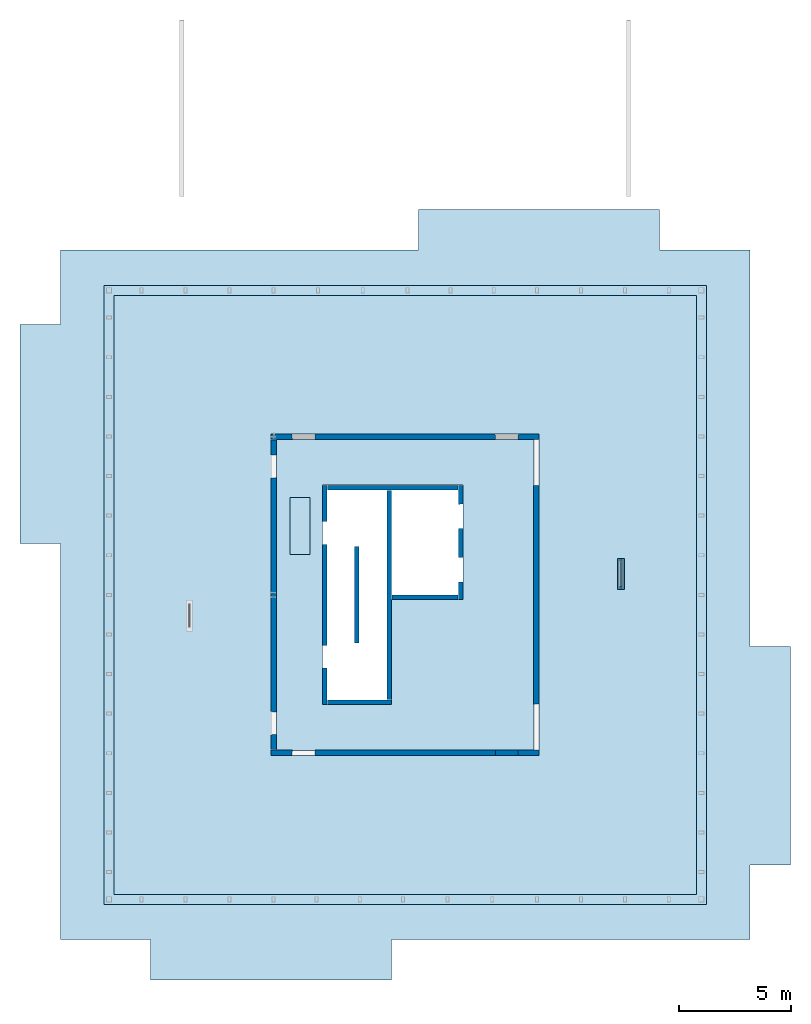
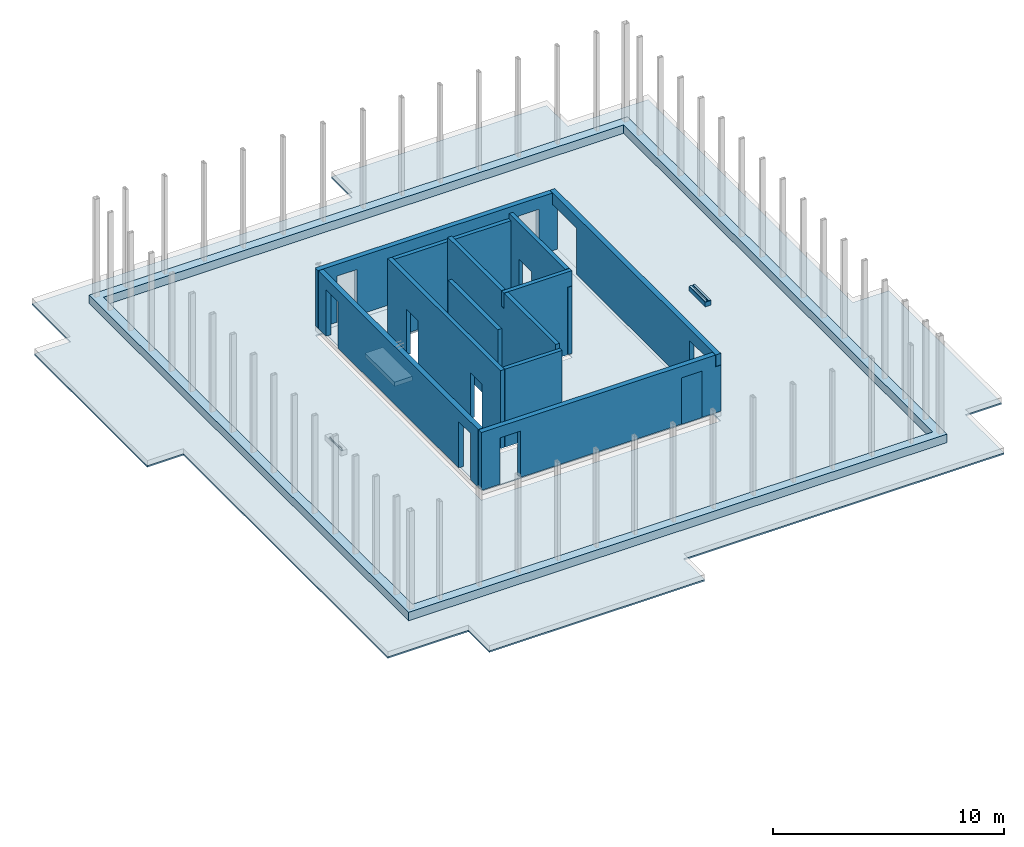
# One storey, part 7 of 9: 12 walls, 9 slabs, 33 openings.
"""IFC2X3 building model written with IfcOpenShell, lengths in millimetres."""

from ifc_helpers import new_model, entity, si_unit, converted_unit, derived_unit, direction, frame, frame_2d, origin, origin_2d_with_axis, place, context, subcontext, project, spatial, polyline, rectangle, circle, outline, extrude, faceted_brep, material, layer, layer_set, layer_usage, type_object, element, save


model = new_model("IFC2X3")

# Units and contexts
model_context = context("Model", 3, precision=0.01, world=origin(), true_north=direction((6.12303176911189e-17, 1.0)))
body_context = subcontext(model_context, "Body", "Model", "MODEL_VIEW")
ifc_project = project(units=[si_unit("LENGTHUNIT", "METRE", prefix="MILLI"), si_unit("AREAUNIT", "SQUARE_METRE"), si_unit("VOLUMEUNIT", "CUBIC_METRE"), converted_unit("PLANEANGLEUNIT", "DEGREE", entity("IfcRatioMeasure", 0.0174532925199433), si_unit("PLANEANGLEUNIT", "RADIAN"), dimensions=[0, 0, 0, 0, 0, 0, 0]), si_unit("MASSUNIT", "GRAM", prefix="KILO"), derived_unit("MASSDENSITYUNIT", [(si_unit("MASSUNIT", "GRAM", prefix="KILO"), 1), (si_unit("LENGTHUNIT", "METRE"), -3)]), si_unit("TIMEUNIT", "SECOND"), si_unit("FREQUENCYUNIT", "HERTZ"), si_unit("THERMODYNAMICTEMPERATUREUNIT", "DEGREE_CELSIUS"), derived_unit("THERMALTRANSMITTANCEUNIT", [(si_unit("MASSUNIT", "GRAM", prefix="KILO"), 1), (si_unit("THERMODYNAMICTEMPERATUREUNIT", "KELVIN"), -1), (si_unit("TIMEUNIT", "SECOND"), -3)]), derived_unit("VOLUMETRICFLOWRATEUNIT", [(si_unit("LENGTHUNIT", "METRE"), 3), (si_unit("TIMEUNIT", "SECOND"), -1)]), si_unit("ELECTRICCURRENTUNIT", "AMPERE"), si_unit("ELECTRICVOLTAGEUNIT", "VOLT"), si_unit("POWERUNIT", "WATT"), si_unit("FORCEUNIT", "NEWTON", prefix="KILO"), si_unit("ILLUMINANCEUNIT", "LUX"), si_unit("LUMINOUSFLUXUNIT", "LUMEN"), si_unit("LUMINOUSINTENSITYUNIT", "CANDELA"), derived_unit("USERDEFINED", [(si_unit("MASSUNIT", "GRAM", prefix="KILO"), -1), (si_unit("LENGTHUNIT", "METRE"), -2), (si_unit("TIMEUNIT", "SECOND"), 3), (si_unit("LUMINOUSFLUXUNIT", "LUMEN"), 1)]), derived_unit("LINEARVELOCITYUNIT", [(si_unit("LENGTHUNIT", "METRE"), 1), (si_unit("TIMEUNIT", "SECOND"), -1)]), si_unit("PRESSUREUNIT", "PASCAL"), derived_unit("USERDEFINED", [(si_unit("LENGTHUNIT", "METRE"), -2), (si_unit("MASSUNIT", "GRAM", prefix="KILO"), 1), (si_unit("TIMEUNIT", "SECOND"), -2)])], contexts=[model_context])

# Site, building, storey
site_placement = place(None, origin())
site = spatial("IfcSite", under=ifc_project, at=site_placement, Name="Default", CompositionType="ELEMENT")
building_placement = place(site_placement, origin())
building = spatial("IfcBuilding", under=site, at=building_placement, Name="niet gebruiken", CompositionType="ELEMENT")
storey_placement = place(building_placement, frame((0.0, 0.0, 178840.0)))
storey = spatial("IfcBuildingStorey", under=building, at=storey_placement, Name="57 zevenenvijftigste verdieping", CompositionType="ELEMENT", Elevation=178840.0)

# Slab, opening
ifc_material_1 = material(Name="NLRS_f2_beton ihwg")
ifc_layer_1 = layer(ifc_material_1, 450.0)
ifc_layer_set_1 = layer_set([ifc_layer_1], Name="Floor:NLRS_13.22_FL_beton ihwg b=450_gen")
ifc_layer_usage_1 = layer_usage(ifc_layer_set_1, "AXIS3", "POSITIVE", 0.0)
slab_1_placement = place(storey_placement, frame((128270.0, 3645.0, -310.0)))
slab_1 = element("IfcSlab", 1, at=slab_1_placement, inside=storey, material=ifc_layer_usage_1, Name="Floor:NLRS_13.22_FL_beton ihwg b=450_gen", ObjectType="Floor:NLRS_13.22_FL_beton ihwg b=450_gen", PredefinedType="BASESLAB", context=body_context, shape_type="SweptSolid", body=[
    extrude(rectangle(XDim=27709.999999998, YDim=26960.0, at=frame_2d((0.0, 0.0), x_axis=(0.0, -1.0))), frame((13480.0, 13855.0, 450.0), z_axis=(0.0, 0.0, -1.0), x_axis=(-1.0, 0.0, 0.0)), (0.0, 0.0, 1.0), 450.000000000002),
])
opening_1_placement = place(slab_1_placement, frame((13480.0, 13855.0, 450.0)))
element("IfcOpeningElement", 2, at=opening_1_placement, cuts=slab_1, Name="Floor:NLRS_13.22_FL_beton ihwg b=450_gen:2", ObjectType="Opening", context=body_context, shape_type="SweptSolid", body=[
    extrude(rectangle(XDim=26809.999999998, YDim=26060.0, at=origin_2d_with_axis()), frame((0.0, 0.0, 0.0), z_axis=(0.0, 0.0, -1.0), x_axis=(0.0, -1.0, 0.0)), (0.0, 0.0, 1.0), 450.000000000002),
])

ifc_material_2 = material(Name="NLRS_f2_beton prefab")
ifc_layer_2 = layer(ifc_material_2, 80.0)
ifc_layer_set_2 = layer_set([ifc_layer_2], Name="Floor:NLRS_23.21_FL_breedplaat d=80_gen")
ifc_layer_usage_2 = layer_usage(ifc_layer_set_2, "AXIS3", "POSITIVE", 0.0)
slab_2_placement = place(storey_placement, frame((124510.0, 260.0, -660.0)))
slab_2 = element("IfcSlab", 3, at=slab_2_placement, inside=storey, material=ifc_layer_usage_2, Name="Floor:NLRS_23.21_FL_breedplaat d=80_gen", ObjectType="Floor:NLRS_23.21_FL_breedplaat d=80_gen", PredefinedType="FLOOR", context=body_context, shape_type="SweptSolid", body=[
    extrude(outline(polyline([(15430.0, 15430.0), (-605.0, 15430.0), (-605.0, 17240.0), (-4875.0, 17240.0), (-11395.0, 17240.0), (-11395.0, 15430.0), (-15430.0, 15430.0), (-15430.0, -2305.0), (-17240.0, -2305.0), (-17240.0, -3235.0), (-17240.0, -12095.0), (-15430.0, -12095.0), (-15430.0, -15430.0), (605.0, -15430.0), (605.0, -17240.0), (11395.0, -17240.0), (11395.0, -15430.0), (15430.0, -15430.0), (15430.0, 2305.0), (17240.0, 2305.0), (17240.0, 12095.0), (15430.0, 12095.0), (15430.0, 15430.0)])), frame((17240.0, 17240.0, 80.0), z_axis=(0.0, 0.0, -1.0), x_axis=(-1.0, 0.0, 0.0)), (0.0, 0.0, 1.0), 80.0000000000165),
])
opening_2_placement = place(slab_2_placement, frame((17240.0, 17240.0, 80.0)))
element("IfcOpeningElement", 4, at=opening_2_placement, cuts=slab_2, Name="Floor:NLRS_23.21_FL_breedplaat d=80_gen:2", ObjectType="Opening", context=body_context, shape_type="SweptSolid", body=[
    extrude(rectangle(XDim=14379.9999999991, YDim=11980.0000000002, at=origin_2d_with_axis()), frame((0.0, 0.0, 0.0), z_axis=(0.0, 0.0, -1.0), x_axis=(0.0, -1.0, 0.0)), (0.0, 0.0, 1.0), 80.0000000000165),
])

# Slab, openings
ifc_layer_3 = layer(ifc_material_2, 60.0)
ifc_layer_set_3 = layer_set([ifc_layer_3], Name="Floor:NLRS_23.21_FL_breedplaat d=60_gen")
ifc_layer_usage_3 = layer_usage(ifc_layer_set_3, "AXIS3", "POSITIVE", 0.0)
slab_3_placement = place(storey_placement, frame((135990.0, 10540.0, -320.0)))
slab_3 = element("IfcSlab", 5, at=slab_3_placement, inside=storey, material=ifc_layer_usage_3, Name="Floor:NLRS_23.21_FL_breedplaat d=60_gen", ObjectType="Floor:NLRS_23.21_FL_breedplaat d=60_gen", PredefinedType="FLOOR", context=body_context, shape_type="SweptSolid", body=[
    extrude(rectangle(XDim=13919.9999999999, YDim=11520.0, at=frame_2d((0.0, 0.0), x_axis=(0.0, -1.0))), frame((5760.0, 6960.0, 60.0), z_axis=(0.0, 0.0, -1.0), x_axis=(-1.0, 0.0, 0.0)), (0.0, 0.0, 1.0), 59.9999999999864),
])
opening_3_placement = place(slab_3_placement, frame((5183.3333333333, 6890.0, 60.0)))
element("IfcOpeningElement", 6, at=opening_3_placement, cuts=slab_3, Name="Floor:NLRS_23.21_FL_breedplaat d=60_gen:2", ObjectType="Opening", context=body_context, shape_type="SweptSolid", body=[
    extrude(outline(polyline([(-4980.0, -3166.66666666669), (140.0, -3166.66666666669), (140.0, 33.3333333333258), (4840.0, 33.3333333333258), (4840.0, 3133.3333333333), (-4980.0, 3133.3333333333), (-4980.0, -3166.66666666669)])), frame((0.0, 0.0, 0.0), z_axis=(0.0, 0.0, -1.0), x_axis=(0.0, -1.0, 0.0)), (0.0, 0.0, 1.0), 59.9999999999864),
])
opening_4_placement = place(slab_3_placement, frame((1060.0, 10040.0, 60.0)))
element("IfcOpeningElement", 7, at=opening_4_placement, cuts=slab_3, Name="Floor:NLRS_23.21_FL_breedplaat d=60_gen:3", ObjectType="Opening", context=body_context, shape_type="SweptSolid", body=[
    extrude(rectangle(XDim=900.000000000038, YDim=2550.0, at=origin_2d_with_axis()), frame((0.0, 0.0, 0.0), z_axis=(0.0, 0.0, -1.0), x_axis=(-1.0, 0.0, 0.0)), (0.0, 0.0, 1.0), 59.9999999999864),
])

ifc_layer_4 = layer(ifc_material_2, 245.0)
ifc_layer_set_4 = layer_set([ifc_layer_4], Name="Floor:NLRS_13.22_FL_beton prefab d=245")
ifc_layer_usage_4 = layer_usage(ifc_layer_set_4, "AXIS3", "POSITIVE", 0.0)
slab_4_placement = place(storey_placement, frame((151260.0, 17735.0, -285.0)))
slab_4 = element("IfcSlab", 8, at=slab_4_placement, inside=storey, material=ifc_layer_usage_4, Name="Floor:NLRS_13.22_FL_beton prefab d=245", ObjectType="Floor:NLRS_13.22_FL_beton prefab d=245", PredefinedType="BASESLAB", context=body_context, shape_type="SweptSolid", body=[
    extrude(rectangle(XDim=1400.0, YDim=300.000000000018, at=frame_2d((0.0, 0.0), x_axis=(0.0, -1.0))), frame((150.0, 700.0, 245.0), z_axis=(0.0, 0.0, -1.0), x_axis=(-1.0, 0.0, 0.0)), (0.0, 0.0, 1.0), 244.999999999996),
])
opening_5_placement = place(slab_4_placement, origin())
element("IfcOpeningElement", 9, at=opening_5_placement, cuts=slab_4, ObjectType="Opening", context=body_context, shape_type="SweptSolid", body=[
    extrude(rectangle(XDim=1050.0, YDim=60.0000000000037, at=origin_2d_with_axis()), frame((150.0, 700.0, 145.0), z_axis=(0.0, 0.0, 1.0), x_axis=(0.0, -1.0, 0.0)), (0.0, 0.0, 1.0), 100.000000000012),
])
opening_6_placement = place(slab_4_placement, origin())
element("IfcOpeningElement", 10, at=opening_6_placement, cuts=slab_4, ObjectType="Opening", context=body_context, shape_type="SweptSolid", body=[
    extrude(circle(Radius=8.0, at=origin_2d_with_axis()), frame((150.0, 1225.0, 245.0), z_axis=(0.0, 1.0, 0.0), x_axis=(1.0, 0.0, 0.0)), (0.0, 0.0, 1.0), 174.999999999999),
])
opening_7_placement = place(slab_4_placement, origin())
element("IfcOpeningElement", 11, at=opening_7_placement, cuts=slab_4, ObjectType="Opening", context=body_context, shape_type="SweptSolid", body=[
    extrude(circle(Radius=8.0, at=origin_2d_with_axis()), frame((150.0, 0.0, 245.0), z_axis=(0.0, 1.0, 0.0), x_axis=(1.0, 0.0, 0.0)), (0.0, 0.0, 1.0), 174.999999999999),
])

# Slabs
ifc_material_3 = material(Name="NLRS_n7_isolatie EPS")
ifc_layer_5 = layer(ifc_material_3, 20.0)
ifc_layer_set_5 = layer_set([ifc_layer_5], Name="Floor:NLRS_13.22_FL_rubber d=20_gen")
ifc_layer_usage_5 = layer_usage(ifc_layer_set_5, "AXIS3", "POSITIVE", 0.0)
slab_5_placement = place(storey_placement, origin())
element("IfcSlab", 12, at=slab_5_placement, inside=storey, material=ifc_layer_usage_5, Name="Floor:NLRS_13.22_FL_rubber d=20_gen", ObjectType="Floor:NLRS_13.22_FL_rubber d=20_gen", PredefinedType="BASESLAB", context=body_context, shape_type="SweptSolid", body=[
    extrude(rectangle(XDim=1400.0, YDim=99.9999999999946, at=frame_2d((1.08002495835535e-12, 8.66506866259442e-12), x_axis=(1.0, 0.0))), frame((151320.0, 18435.0, -20.0), z_axis=(0.0, 0.0, -1.0), x_axis=(0.0, 1.0, 0.0)), (0.0, 0.0, 1.0), 19.9999999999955),
])
ifc_layer_usage_6 = layer_usage(ifc_layer_set_5, "AXIS3", "POSITIVE", 0.0)
slab_6_placement = place(storey_placement, origin())
element("IfcSlab", 13, at=slab_6_placement, inside=storey, material=ifc_layer_usage_6, Name="Floor:NLRS_13.22_FL_rubber d=20_gen", ObjectType="Floor:NLRS_13.22_FL_rubber d=20_gen", PredefinedType="BASESLAB", context=body_context, shape_type="SweptSolid", body=[
    extrude(rectangle(XDim=1400.0, YDim=99.9999999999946, at=frame_2d((1.08002495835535e-12, 8.66506866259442e-12), x_axis=(1.0, 0.0))), frame((151500.0, 18435.0, -20.0), z_axis=(0.0, 0.0, -1.0), x_axis=(0.0, 1.0, 0.0)), (0.0, 0.0, 1.0), 19.9999999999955),
])
ifc_layer_usage_7 = layer_usage(ifc_layer_set_5, "AXIS3", "POSITIVE", 0.0)
slab_7_placement = place(storey_placement, origin())
element("IfcSlab", 14, at=slab_7_placement, inside=storey, material=ifc_layer_usage_7, Name="Floor:NLRS_13.22_FL_rubber d=20_gen", ObjectType="Floor:NLRS_13.22_FL_rubber d=20_gen", PredefinedType="BASESLAB", context=body_context, shape_type="SweptSolid", body=[
    extrude(rectangle(XDim=1050.0, YDim=59.9999999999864, at=frame_2d((-2.1600499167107e-12, 0.0), x_axis=(1.0, 0.0))), frame((151410.0, 18435.0, -120.0), z_axis=(0.0, 0.0, -1.0), x_axis=(0.0, 1.0, 0.0)), (0.0, 0.0, 1.0), 19.9999999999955),
])
ifc_layer_usage_8 = layer_usage(ifc_layer_set_5, "AXIS3", "POSITIVE", 0.0)
slab_8_placement = place(storey_placement, origin())
element("IfcSlab", 15, at=slab_8_placement, inside=storey, material=ifc_layer_usage_8, Name="Floor:NLRS_13.22_FL_rubber d=20_gen", ObjectType="Floor:NLRS_13.22_FL_rubber d=20_gen", PredefinedType="BASESLAB", context=body_context, shape_type="SweptSolid", body=[
    extrude(rectangle(XDim=1050.0, YDim=59.9999999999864, at=frame_2d((-1.08002495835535e-12, 0.0), x_axis=(1.0, 0.0))), frame((132090.0, 16565.0, -105.0), z_axis=(0.0, 0.0, -1.0), x_axis=(0.0, 1.0, 0.0)), (0.0, 0.0, 1.0), 19.9999999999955),
])
ifc_layer_6 = layer(ifc_material_1, 230.0)
ifc_layer_set_6 = layer_set([ifc_layer_6], Name="Floor:NLRS_23.21_FL_vloer=230 later gestort_gen")
ifc_layer_usage_9 = layer_usage(ifc_layer_set_6, "AXIS3", "POSITIVE", 0.0)
slab_9_placement = place(storey_placement, origin())
element("IfcSlab", 16, at=slab_9_placement, inside=storey, material=ifc_layer_usage_9, Name="Floor:NLRS_23.21_FL_vloer=230 later gestort_gen", ObjectType="Floor:NLRS_23.21_FL_vloer=230 later gestort_gen", PredefinedType="FLOOR", context=body_context, shape_type="SweptSolid", body=[
    extrude(rectangle(XDim=2550.0, YDim=900.000000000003, at=frame_2d((1.13686837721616e-12, 0.0), x_axis=(1.0, 0.0))), frame((137050.0, 20580.0, -90.0), z_axis=(0.0, 0.0, -1.0), x_axis=(0.0, 1.0, 0.0)), (0.0, 0.0, 1.0), 230.000000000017),
])

# Wall, openings
ifc_layer_7 = layer(ifc_material_2, 200.0)
ifc_layer_set_7 = layer_set([ifc_layer_7], Name="Basic Wall:NLRS_22.21_WA_beton prefab d=200_gen")
ifc_layer_usage_10 = layer_usage(ifc_layer_set_7, "AXIS2", "NEGATIVE", 100.0)
wall_type_1 = type_object("IfcWallType", Name="Basic Wall:NLRS_22.21_WA_beton prefab d=200_gen", PredefinedType="STANDARD", material=ifc_layer_set_7)
wall_1_placement = place(storey_placement, frame((138150.0, 22400.0, -50.0), z_axis=(0.0, 0.0, 1.0), x_axis=(0.0, -1.0, 0.0)))
wall_1 = element("IfcWallStandardCase", 17, at=wall_1_placement, inside=storey, type_object=wall_type_1, material=ifc_layer_usage_10, Name="Basic Wall:NLRS_22.21_WA_beton prefab d=200_gen", ObjectType="Basic Wall:NLRS_22.21_WA_beton prefab d=200_gen", context=body_context, shape_type="SweptSolid", body=[
    extrude(rectangle(XDim=9800.0, YDim=199.999999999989, at=frame_2d((4900.0, 3.76587649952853e-13), x_axis=(-1.0, 0.0))), origin(), (0.0, 0.0, 1.0), 4130.0),
])
opening_8_placement = place(wall_1_placement, origin())
element("IfcOpeningElement", 18, at=opening_8_placement, cuts=wall_1, Name="Basic Wall:NLRS_22.21_WA_beton prefab d=200_gen", ObjectType="Opening", context=body_context, shape_type="SweptSolid", body=[
    extrude(rectangle(XDim=2434.99999999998, YDim=1015.99999999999, at=frame_2d((0.0, -2.18847162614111e-12), x_axis=(1.0, 0.0))), frame((2128.0, -100.0, 1217.49999999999), z_axis=(0.0, 1.0, 0.0), x_axis=(0.0, 0.0, -1.0)), (0.0, 0.0, 1.0), 199.999999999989),
])
opening_9_placement = place(wall_1_placement, origin())
element("IfcOpeningElement", 19, at=opening_9_placement, cuts=wall_1, Name="Basic Wall:NLRS_22.21_WA_beton prefab d=200_gen", ObjectType="Opening", context=body_context, shape_type="SweptSolid", body=[
    extrude(rectangle(XDim=2434.99999999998, YDim=1015.99999999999, at=frame_2d((0.0, -1.10844666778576e-12), x_axis=(1.0, 0.0))), frame((7672.0, -100.0, 1217.49999999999), z_axis=(0.0, 1.0, 0.0), x_axis=(0.0, 0.0, -1.0)), (0.0, 0.0, 1.0), 199.999999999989),
])

ifc_layer_usage_11 = layer_usage(ifc_layer_set_7, "AXIS2", "NEGATIVE", 100.0)
wall_2_placement = place(storey_placement, frame((144230.0, 22400.0, -50.0), z_axis=(0.0, 0.0, 1.0), x_axis=(0.0, -1.0, 0.0)))
wall_2 = element("IfcWallStandardCase", 20, at=wall_2_placement, inside=storey, type_object=wall_type_1, material=ifc_layer_usage_11, Name="Basic Wall:NLRS_22.21_WA_beton prefab d=200_gen", ObjectType="Basic Wall:NLRS_22.21_WA_beton prefab d=200_gen", context=body_context, shape_type="SweptSolid", body=[
    extrude(rectangle(XDim=5100.0, YDim=199.999999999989, at=frame_2d((2550.0, 3.96482846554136e-12), x_axis=(-1.0, 0.0))), origin(), (0.0, 0.0, 1.0), 4380.00000000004),
])
opening_10_placement = place(wall_2_placement, origin())
element("IfcOpeningElement", 21, at=opening_10_placement, cuts=wall_2, Name="Basic Wall:NLRS_22.21_WA_beton prefab d=200_gen", ObjectType="Opening", context=body_context, shape_type="SweptSolid", body=[
    extrude(rectangle(XDim=819.999999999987, YDim=220.000000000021, at=frame_2d((1.73372427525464e-11, 1.08002495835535e-12), x_axis=(1.0, 0.0))), frame((4990.0, -100.0, 3970.0), z_axis=(0.0, 1.0, 0.0), x_axis=(0.0, 0.0, -1.0)), (0.0, 0.0, 1.0), 199.999999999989),
])
opening_11_placement = place(wall_2_placement, frame((1942.0, -100.0, 0.0)))
element("IfcOpeningElement", 22, at=opening_11_placement, cuts=wall_2, Name="Basic Wall:NLRS_22.21_WA_beton prefab d=200_gen", ObjectType="Opening", context=body_context, shape_type="Brep", body=[
    faceted_brep([(-1104.0, 200.0, 2502.0), (-1104.0, 200.0, 0.0), (-1092.0, 0.0, 0.0), (-1092.0, 0.0, 2490.0), (0.0, 200.0, 0.0), (-12.0, 0.0, 0.0), (-12.0, 0.0, 2490.0), (0.0, 200.0, 2502.0)], [[[0, 1, 2, 3]], [[1, 4, 5, 2]], [[6, 3, 2, 5]], [[7, 4, 1, 0]], [[7, 0, 3, 6]], [[4, 7, 6, 5]]]),
])
opening_12_placement = place(wall_2_placement, frame((4332.0, -100.0, 0.0)))
element("IfcOpeningElement", 23, at=opening_12_placement, cuts=wall_2, Name="Basic Wall:NLRS_22.21_WA_beton prefab d=200_gen", ObjectType="Opening", context=body_context, shape_type="Brep", body=[
    faceted_brep([(-1104.0, 200.0, 2502.0), (-1104.0, 200.0, 0.0), (-1092.0, 0.0, 0.0), (-1092.0, 0.0, 2490.0), (0.0, 200.0, 0.0), (-12.0, 0.0, 0.0), (-12.0, 0.0, 2490.0), (0.0, 200.0, 2502.0)], [[[0, 1, 2, 3]], [[1, 4, 5, 2]], [[6, 3, 2, 5]], [[7, 4, 1, 0]], [[7, 0, 3, 6]], [[4, 7, 6, 5]]]),
])

ifc_layer_usage_12 = layer_usage(ifc_layer_set_7, "AXIS2", "NEGATIVE", 100.0)
wall_3_placement = place(storey_placement, frame((141030.0, 22180.0, -50.0), z_axis=(0.0, 0.0, 1.0), x_axis=(0.0, -1.0, 0.0)))
wall_3 = element("IfcWallStandardCase", 24, at=wall_3_placement, inside=storey, type_object=wall_type_1, material=ifc_layer_usage_12, Name="Basic Wall:NLRS_22.21_WA_beton prefab d=200_gen", ObjectType="Basic Wall:NLRS_22.21_WA_beton prefab d=200_gen", context=body_context, shape_type="SweptSolid", body=[
    extrude(rectangle(XDim=9360.0, YDim=199.999999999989, at=frame_2d((4680.0, -2.8421709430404e-14), x_axis=(-1.0, 0.0))), origin(), (0.0, 0.0, 1.0), 4380.00000000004),
])
opening_13_placement = place(wall_3_placement, origin())
element("IfcOpeningElement", 25, at=opening_13_placement, cuts=wall_3, Name="Basic Wall:NLRS_22.21_WA_beton prefab d=200_gen", ObjectType="Opening", context=body_context, shape_type="SweptSolid", body=[
    extrude(rectangle(XDim=819.999999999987, YDim=240.0, at=frame_2d((1.73372427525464e-11, -1.08713038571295e-12), x_axis=(1.0, 0.0))), frame((4780.0, -100.0, 3970.0), z_axis=(0.0, 1.0, 0.0), x_axis=(0.0, 0.0, -1.0)), (0.0, 0.0, 1.0), 199.999999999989),
])
opening_14_placement = place(wall_3_placement, origin())
element("IfcOpeningElement", 26, at=opening_14_placement, cuts=wall_3, Name="Basic Wall:NLRS_22.21_WA_beton prefab d=200_gen", ObjectType="Opening", context=body_context, shape_type="SweptSolid", body=[
    extrude(rectangle(XDim=69.9999999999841, YDim=1044.0, at=frame_2d((-1.732658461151e-11, 2.1600499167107e-12), x_axis=(1.0, 0.0))), frame((1908.0, -100.0, 35.0), z_axis=(0.0, 1.0, 0.0), x_axis=(0.0, 0.0, -1.0)), (0.0, 0.0, 1.0), 199.999999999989),
])
opening_15_placement = place(wall_3_placement, origin())
element("IfcOpeningElement", 27, at=opening_15_placement, cuts=wall_3, Name="Basic Wall:NLRS_22.21_WA_beton prefab d=200_gen", ObjectType="Opening", context=body_context, shape_type="SweptSolid", body=[
    extrude(rectangle(XDim=69.9999999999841, YDim=1044.0, at=frame_2d((-1.732658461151e-11, 2.1600499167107e-12), x_axis=(1.0, 0.0))), frame((7452.0, -100.0, 35.0), z_axis=(0.0, 1.0, 0.0), x_axis=(0.0, 0.0, -1.0)), (0.0, 0.0, 1.0), 199.999999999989),
])
opening_16_placement = place(wall_3_placement, origin())
element("IfcOpeningElement", 28, at=opening_16_placement, cuts=wall_3, Name="Basic Wall:NLRS_22.21_WA_beton prefab d=200_gen", ObjectType="Recess", context=body_context, shape_type="SweptSolid", body=[
    extrude(rectangle(XDim=399.999999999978, YDim=280.000000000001, at=frame_2d((-2.1600499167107e-12, 0.0), x_axis=(0.0, 1.0))), frame((770.0, -60.0, 438.0), z_axis=(0.0, 1.0, 0.0), x_axis=(1.0, 0.0, 0.0)), (0.0, 0.0, 1.0), 159.999999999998),
])
opening_17_placement = place(wall_3_placement, origin())
element("IfcOpeningElement", 29, at=opening_17_placement, cuts=wall_3, Name="Basic Wall:NLRS_22.21_WA_beton prefab d=200_gen", ObjectType="Recess", context=body_context, shape_type="SweptSolid", body=[
    extrude(rectangle(XDim=399.999999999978, YDim=280.000000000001, at=frame_2d((-2.1600499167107e-12, 0.0), x_axis=(0.0, 1.0))), frame((1570.0, -60.0, 438.0), z_axis=(0.0, 1.0, 0.0), x_axis=(1.0, 0.0, 0.0)), (0.0, 0.0, 1.0), 159.999999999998),
])
opening_18_placement = place(wall_3_placement, origin())
element("IfcOpeningElement", 30, at=opening_18_placement, cuts=wall_3, Name="Basic Wall:NLRS_22.21_WA_beton prefab d=200_gen", ObjectType="Recess", context=body_context, shape_type="SweptSolid", body=[
    extrude(rectangle(XDim=399.999999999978, YDim=279.999999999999, at=frame_2d((1.08002495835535e-12, 0.0), x_axis=(0.0, 1.0))), frame((3160.0, -60.0, 438.0), z_axis=(0.0, 1.0, 0.0), x_axis=(1.0, 0.0, 0.0)), (0.0, 0.0, 1.0), 159.999999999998),
])
opening_19_placement = place(wall_3_placement, origin())
element("IfcOpeningElement", 31, at=opening_19_placement, cuts=wall_3, Name="Basic Wall:NLRS_22.21_WA_beton prefab d=200_gen", ObjectType="Recess", context=body_context, shape_type="SweptSolid", body=[
    extrude(rectangle(XDim=399.999999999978, YDim=279.999999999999, at=frame_2d((1.08002495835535e-12, 0.0), x_axis=(0.0, 1.0))), frame((3960.0, -60.0, 438.0), z_axis=(0.0, 1.0, 0.0), x_axis=(1.0, 0.0, 0.0)), (0.0, 0.0, 1.0), 159.999999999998),
])

# Walls
ifc_layer_usage_13 = layer_usage(ifc_layer_set_7, "AXIS2", "NEGATIVE", 100.0)
wall_4_placement = place(storey_placement, frame((139590.0, 19660.0, -50.0), z_axis=(0.0, 0.0, 1.0), x_axis=(0.0, -1.0, 0.0)))
element("IfcWallStandardCase", 32, at=wall_4_placement, inside=storey, type_object=wall_type_1, material=ifc_layer_usage_13, Name="Basic Wall:NLRS_22.21_WA_beton prefab d=200_gen", ObjectType="Basic Wall:NLRS_22.21_WA_beton prefab d=200_gen", context=body_context, shape_type="SweptSolid", body=[
    extrude(rectangle(XDim=4319.99999999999, YDim=199.999999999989, at=frame_2d((2160.0, 0.0), x_axis=(-1.0, 0.0))), origin(), (0.0, 0.0, 1.0), 4130.0),
])
ifc_layer_usage_14 = layer_usage(ifc_layer_set_7, "AXIS2", "NEGATIVE", 100.0)
wall_5_placement = place(storey_placement, frame((138270.0, 12700.0, -50.0)))
element("IfcWallStandardCase", 33, at=wall_5_placement, inside=storey, type_object=wall_type_1, material=ifc_layer_usage_14, Name="Basic Wall:NLRS_22.21_WA_beton prefab d=200_gen", ObjectType="Basic Wall:NLRS_22.21_WA_beton prefab d=200_gen", context=body_context, shape_type="SweptSolid", body=[
    extrude(rectangle(XDim=2859.99999999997, YDim=199.999999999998, at=frame_2d((1429.99999999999, 1.13686837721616e-13), x_axis=(-1.0, 0.0))), origin(), (0.0, 0.0, 1.0), 4130.0),
])
ifc_layer_usage_15 = layer_usage(ifc_layer_set_7, "AXIS2", "NEGATIVE", 100.0)
wall_6_placement = place(storey_placement, frame((138270.0, 22300.0, -50.0)))
element("IfcWallStandardCase", 34, at=wall_6_placement, inside=storey, type_object=wall_type_1, material=ifc_layer_usage_15, Name="Basic Wall:NLRS_22.21_WA_beton prefab d=200_gen", ObjectType="Basic Wall:NLRS_22.21_WA_beton prefab d=200_gen", context=body_context, shape_type="SweptSolid", body=[
    extrude(rectangle(XDim=5839.99999999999, YDim=199.999999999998, at=frame_2d((2919.99999999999, -7.60280727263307e-13), x_axis=(-1.0, 0.0))), origin(), (0.0, 0.0, 1.0), 4130.0),
])

# Wall, openings
ifc_layer_usage_16 = layer_usage(ifc_layer_set_7, "AXIS2", "NEGATIVE", 100.0)
wall_7_placement = place(storey_placement, frame((140930.0, 17400.0, -50.0)))
wall_7 = element("IfcWallStandardCase", 35, at=wall_7_placement, inside=storey, type_object=wall_type_1, material=ifc_layer_usage_16, Name="Basic Wall:NLRS_22.21_WA_beton prefab d=200_gen", ObjectType="Basic Wall:NLRS_22.21_WA_beton prefab d=200_gen", context=body_context, shape_type="SweptSolid", body=[
    extrude(rectangle(XDim=3400.00000000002, YDim=199.999999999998, at=frame_2d((1700.00000000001, 4.47641923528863e-13), x_axis=(-1.0, 0.0))), origin(), (0.0, 0.0, 1.0), 4380.00000000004),
])
opening_20_placement = place(wall_7_placement, origin())
element("IfcOpeningElement", 36, at=opening_20_placement, cuts=wall_7, Name="Basic Wall:NLRS_22.21_WA_beton prefab d=200_gen", ObjectType="Opening", context=body_context, shape_type="SweptSolid", body=[
    extrude(rectangle(XDim=3580.00000000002, YDim=220.000000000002, at=frame_2d((0.0, 8.66862137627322e-12), x_axis=(1.0, 0.0))), frame((110.0, -100.0, 1790.0), z_axis=(0.0, 1.0, 0.0), x_axis=(0.0, 0.0, -1.0)), (0.0, 0.0, 1.0), 200.000000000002),
])
opening_21_placement = place(wall_7_placement, origin())
element("IfcOpeningElement", 37, at=opening_21_placement, cuts=wall_7, Name="Basic Wall:NLRS_22.21_WA_beton prefab d=200_gen", ObjectType="Opening", context=body_context, shape_type="SweptSolid", body=[
    extrude(rectangle(XDim=3580.00000000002, YDim=220.000000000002, at=frame_2d((0.0, -8.66862137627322e-12), x_axis=(1.0, 0.0))), frame((3290.0, -100.0, 1790.0), z_axis=(0.0, 1.0, 0.0), x_axis=(0.0, 0.0, -1.0)), (0.0, 0.0, 1.0), 199.999999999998),
])

ifc_layer_8 = layer(ifc_material_2, 250.0)
ifc_layer_set_8 = layer_set([ifc_layer_8], Name="Basic Wall:NLRS_22.21_WA_beton prefab d=250_gen")
ifc_layer_usage_17 = layer_usage(ifc_layer_set_8, "AXIS2", "NEGATIVE", 125.0)
wall_type_2 = type_object("IfcWallType", Name="Basic Wall:NLRS_22.21_WA_beton prefab d=250_gen", PredefinedType="STANDARD", material=ifc_layer_set_8)
wall_8_placement = place(storey_placement, frame((135875.0, 24430.0, -60.0), z_axis=(0.0, 0.0, 1.0), x_axis=(0.0, -1.0, 0.0)))
wall_8 = element("IfcWallStandardCase", 38, at=wall_8_placement, inside=storey, type_object=wall_type_2, material=ifc_layer_usage_17, Name="Basic Wall:NLRS_22.21_WA_beton prefab d=250_gen", ObjectType="Basic Wall:NLRS_22.21_WA_beton prefab d=250_gen", context=body_context, shape_type="SweptSolid", body=[
    extrude(rectangle(XDim=13860.0, YDim=250.000000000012, at=frame_2d((6930.0, 0.0), x_axis=(-1.0, 0.0))), origin(), (0.0, 0.0, 1.0), 3060.0),
])
opening_22_placement = place(wall_8_placement, frame((13195.0, -125.0, -10.0)))
element("IfcOpeningElement", 39, at=opening_22_placement, cuts=wall_8, Name="Basic Wall:NLRS_22.21_WA_beton prefab d=250_gen", ObjectType="Opening", context=body_context, shape_type="Brep", body=[
    faceted_brep([(-1036.0, 0.0, 2463.0), (-1021.0, 250.0, 2448.0), (-1021.0, 250.0, 0.0), (-1036.0, 0.0, 0.0), (-15.0, 250.0, 0.0), (0.0, 0.0, 0.0), (-15.0, 250.0, 2448.0), (0.0, 0.0, 2463.0)], [[[0, 1, 2, 3]], [[3, 2, 4, 5]], [[6, 4, 2, 1]], [[7, 0, 3, 5]], [[7, 6, 1, 0]], [[5, 4, 6, 7]]]),
])
opening_23_placement = place(wall_8_placement, frame((1701.0, -125.0, -10.0)))
element("IfcOpeningElement", 40, at=opening_23_placement, cuts=wall_8, Name="Basic Wall:NLRS_22.21_WA_beton prefab d=250_gen", ObjectType="Opening", context=body_context, shape_type="Brep", body=[
    faceted_brep([(-1036.0, 0.0, 2463.0), (-1021.0, 250.0, 2448.0), (-1021.0, 250.0, 0.0), (-1036.0, 0.0, 0.0), (-15.0, 250.0, 0.0), (0.0, 0.0, 0.0), (-15.0, 250.0, 2448.0), (0.0, 0.0, 2463.0)], [[[0, 1, 2, 3]], [[3, 2, 4, 5]], [[6, 4, 2, 1]], [[7, 0, 3, 5]], [[7, 6, 1, 0]], [[5, 4, 6, 7]]]),
])

ifc_layer_usage_18 = layer_usage(ifc_layer_set_8, "AXIS2", "NEGATIVE", 125.0)
wall_9_placement = place(storey_placement, frame((135750.0, 24575.0, -60.0)))
wall_9 = element("IfcWallStandardCase", 41, at=wall_9_placement, inside=storey, type_object=wall_type_2, material=ifc_layer_usage_18, Name="Basic Wall:NLRS_22.21_WA_beton prefab d=250_gen", ObjectType="Basic Wall:NLRS_22.21_WA_beton prefab d=250_gen", context=body_context, shape_type="SweptSolid", body=[
    extrude(rectangle(XDim=12000.0000000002, YDim=250.000000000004, at=frame_2d((6000.0000000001, -2.77111666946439e-13), x_axis=(-1.0, 0.0))), origin(), (0.0, 0.0, 1.0), 3060.0),
])
opening_24_placement = place(wall_9_placement, frame((935.0, -125.0, -10.0)))
element("IfcOpeningElement", 42, at=opening_24_placement, cuts=wall_9, Name="Basic Wall:NLRS_22.21_WA_beton prefab d=250_gen", ObjectType="Opening", context=body_context, shape_type="Brep", body=[
    faceted_brep([(1021.0, 0.0, 2448.0), (15.0, 0.0, 2448.0), (15.0, 0.0, 0.0), (1021.0, 0.0, 0.0), (1036.0, 250.0, 2463.0), (1036.0, 250.0, 0.0), (0.0, 250.0, 0.0), (0.0, 250.0, 2463.0)], [[[0, 1, 2, 3]], [[4, 5, 6, 7]], [[4, 7, 1, 0]], [[7, 6, 2, 1]], [[6, 5, 3, 2]], [[5, 4, 0, 3]]]),
])
opening_25_placement = place(wall_9_placement, frame((10029.0, -125.0, -10.0)))
element("IfcOpeningElement", 43, at=opening_25_placement, cuts=wall_9, Name="Basic Wall:NLRS_22.21_WA_beton prefab d=250_gen", ObjectType="Opening", context=body_context, shape_type="Brep", body=[
    faceted_brep([(1021.0, 0.0, 2448.0), (15.0, 0.0, 2448.0), (15.0, 0.0, 0.0), (1021.0, 0.0, 0.0), (1036.0, 250.0, 2463.0), (1036.0, 250.0, 0.0), (0.0, 250.0, 0.0), (0.0, 250.0, 2463.0)], [[[0, 1, 2, 3]], [[4, 5, 6, 7]], [[4, 7, 1, 0]], [[7, 6, 2, 1]], [[6, 5, 3, 2]], [[5, 4, 0, 3]]]),
])
opening_26_placement = place(wall_9_placement, origin())
element("IfcOpeningElement", 44, at=opening_26_placement, cuts=wall_9, Name="Basic Wall:NLRS_22.21_WA_beton prefab d=250_gen", ObjectType="Opening", context=body_context, shape_type="SweptSolid", body=[
    extrude(rectangle(XDim=627.00005531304, YDim=269.996459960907, at=frame_2d((0.0, -8.66862137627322e-12), x_axis=(1.0, 0.0))), frame((11865.0017700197, 125.0, 2746.49997234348), z_axis=(0.0, -1.0, 0.0), x_axis=(0.0, 0.0, 1.0)), (0.0, 0.0, 1.0), 250.0),
])

ifc_layer_usage_19 = layer_usage(ifc_layer_set_8, "AXIS2", "NEGATIVE", 125.0)
wall_10_placement = place(storey_placement, frame((147625.0, 24700.0, -60.0), z_axis=(0.0, 0.0, 1.0), x_axis=(0.0, -1.0, 0.0)))
wall_10 = element("IfcWallStandardCase", 45, at=wall_10_placement, inside=storey, type_object=wall_type_2, material=ifc_layer_usage_19, Name="Basic Wall:NLRS_22.21_WA_beton prefab d=250_gen", ObjectType="Basic Wall:NLRS_22.21_WA_beton prefab d=250_gen", context=body_context, shape_type="SweptSolid", body=[
    extrude(rectangle(XDim=14400.0, YDim=250.000000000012, at=frame_2d((7200.0, 3.12638803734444e-13), x_axis=(-1.0, 0.0))), origin(), (0.0, 0.0, 1.0), 3060.0),
])
opening_27_placement = place(wall_10_placement, frame((2315.0, -125.0, -10.0)))
element("IfcOpeningElement", 46, at=opening_27_placement, cuts=wall_10, Name="Basic Wall:NLRS_22.21_WA_beton prefab d=250_gen", ObjectType="Opening", context=body_context, shape_type="Brep", body=[
    faceted_brep([(-2060.0, 250.0, 2463.0), (-2060.0, 250.0, 0.0), (-2045.0, 0.0, 0.0), (-2045.0, 0.0, 2448.0), (0.0, 250.0, 0.0), (-15.0, 0.0, 0.0), (-15.0, 0.0, 2448.0), (0.0, 250.0, 2463.0)], [[[0, 1, 2, 3]], [[1, 4, 5, 2]], [[6, 3, 2, 5]], [[7, 4, 1, 0]], [[7, 0, 3, 6]], [[4, 7, 6, 5]]]),
])
opening_28_placement = place(wall_10_placement, frame((14145.0, -125.0, -10.0)))
element("IfcOpeningElement", 47, at=opening_28_placement, cuts=wall_10, Name="Basic Wall:NLRS_22.21_WA_beton prefab d=250_gen", ObjectType="Opening", context=body_context, shape_type="Brep", body=[
    faceted_brep([(-2060.0, 250.0, 2463.0), (-2060.0, 250.0, 0.0), (-2045.0, 0.0, 0.0), (-2045.0, 0.0, 2448.0), (0.0, 250.0, 0.0), (-15.0, 0.0, 0.0), (-15.0, 0.0, 2448.0), (0.0, 250.0, 2463.0)], [[[0, 1, 2, 3]], [[1, 4, 5, 2]], [[6, 3, 2, 5]], [[7, 4, 1, 0]], [[7, 0, 3, 6]], [[4, 7, 6, 5]]]),
])
opening_29_placement = place(wall_10_placement, origin())
element("IfcOpeningElement", 48, at=opening_29_placement, cuts=wall_10, Name="Basic Wall:NLRS_22.21_WA_beton prefab d=250_gen", ObjectType="Opening", context=body_context, shape_type="SweptSolid", body=[
    extrude(rectangle(XDim=2452.99994468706, YDim=270.000000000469, at=frame_2d((-1.08002495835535e-12, -1.73940861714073e-11), x_axis=(0.0, 1.0))), frame((14265.0, 125.0, 1226.49997234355), z_axis=(0.0, -1.0, 0.0), x_axis=(1.0, 0.0, 0.0)), (0.0, 0.0, 1.0), 250.0),
])
opening_30_placement = place(wall_10_placement, origin())
element("IfcOpeningElement", 49, at=opening_30_placement, cuts=wall_10, Name="Basic Wall:NLRS_22.21_WA_beton prefab d=250_gen", ObjectType="Opening", context=body_context, shape_type="SweptSolid", body=[
    extrude(rectangle(XDim=2452.99994468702, YDim=270.000000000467, at=origin_2d_with_axis()), frame((135.0, 125.0, 1226.49997234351), z_axis=(0.0, -1.0, 0.0), x_axis=(0.0, 0.0, -1.0)), (0.0, 0.0, 1.0), 250.0),
])

ifc_layer_usage_20 = layer_usage(ifc_layer_set_8, "AXIS2", "NEGATIVE", 125.0)
wall_11_placement = place(storey_placement, frame((135750.0, 10425.0, -60.0)))
wall_11 = element("IfcWallStandardCase", 50, at=wall_11_placement, inside=storey, type_object=wall_type_2, material=ifc_layer_usage_20, Name="Basic Wall:NLRS_22.21_WA_beton prefab d=250_gen", ObjectType="Basic Wall:NLRS_22.21_WA_beton prefab d=250_gen", context=body_context, shape_type="SweptSolid", body=[
    extrude(rectangle(XDim=12000.0000000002, YDim=249.999999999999, at=frame_2d((6000.0000000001, 8.02913291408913e-13), x_axis=(-1.0, 0.0))), origin(), (0.0, 0.0, 1.0), 3060.0),
])
opening_31_placement = place(wall_11_placement, frame((935.0, -125.0, -10.0)))
element("IfcOpeningElement", 51, at=opening_31_placement, cuts=wall_11, Name="Basic Wall:NLRS_22.21_WA_beton prefab d=250_gen", ObjectType="Opening", context=body_context, shape_type="Brep", body=[
    faceted_brep([(0.0, 0.0, 2463.0), (15.0, 250.0, 2448.0), (15.0, 250.0, 0.0), (0.0, 0.0, 0.0), (1021.0, 250.0, 0.0), (1036.0, 0.0, 0.0), (1021.0, 250.0, 2448.0), (1036.0, 0.0, 2463.0)], [[[0, 1, 2, 3]], [[3, 2, 4, 5]], [[6, 4, 2, 1]], [[7, 0, 3, 5]], [[7, 6, 1, 0]], [[5, 4, 6, 7]]]),
])
opening_32_placement = place(wall_11_placement, frame((10029.0, -125.0, -10.0)))
element("IfcOpeningElement", 52, at=opening_32_placement, cuts=wall_11, Name="Basic Wall:NLRS_22.21_WA_beton prefab d=250_gen", ObjectType="Opening", context=body_context, shape_type="Brep", body=[
    faceted_brep([(1021.0, 250.0, 2448.0), (1021.0, 250.0, 0.0), (15.0, 250.0, 0.0), (15.0, 250.0, 2448.0), (1036.0, 0.0, 2463.0), (0.0, 0.0, 2463.0), (0.0, 0.0, 0.0), (1036.0, 0.0, 0.0)], [[[0, 1, 2, 3]], [[4, 5, 6, 7]], [[4, 0, 3, 5]], [[5, 3, 2, 6]], [[6, 2, 1, 7]], [[7, 1, 0, 4]]]),
])
opening_33_placement = place(wall_11_placement, origin())
element("IfcOpeningElement", 53, at=opening_33_placement, cuts=wall_11, Name="Basic Wall:NLRS_22.21_WA_beton prefab d=250_gen", ObjectType="Opening", context=body_context, shape_type="SweptSolid", body=[
    extrude(rectangle(XDim=627.00005531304, YDim=270.00354003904, at=frame_2d((0.0, -8.65441052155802e-12), x_axis=(1.0, 0.0))), frame((11864.9982299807, 125.0, 2746.49997234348), z_axis=(0.0, -1.0, 0.0), x_axis=(0.0, 0.0, 1.0)), (0.0, 0.0, 1.0), 250.0),
])

# Wall
ifc_material_4 = material(Name="NLRS_f2_beton prefab dichtstorten")
wall_type_3 = type_object("IfcWallType", Name="Parametric Wall:NLRS_22.21_WA_beton prefab d=250 1006x2448_gen", PredefinedType="NOTDEFINED", material=ifc_material_4)
wall_12_placement = place(storey_placement, frame((145779.0, 10300.0, -70.0)))
element("IfcWall", 54, at=wall_12_placement, inside=storey, type_object=wall_type_3, material=ifc_material_4, Name="Parametric Wall:NLRS_22.21_WA_beton prefab d=250 1006x2448_gen", ObjectType="Parametric Wall:NLRS_22.21_WA_beton prefab d=250 1006x2448_gen", context=body_context, shape_type="Brep", body=[
    faceted_brep([(0.0, 0.0, 2463.0), (0.0, 0.0, 10.0), (0.0, 0.0, 0.0), (1036.0, 0.0, 0.0), (1036.0, 0.0, 10.0), (1036.0, 0.0, 2463.0), (15.0, 250.0, 2448.0), (1021.0, 250.0, 2448.0), (1021.0, 250.0, 10.0), (1021.0, 250.0, 0.0), (15.0, 250.0, 0.0), (15.0, 250.0, 10.0)], [[[0, 1, 2, 3, 4, 5]], [[6, 7, 8, 9, 10, 11]], [[6, 11, 10, 2, 1, 0]], [[9, 8, 7, 5, 4, 3]], [[10, 9, 3, 2]], [[7, 6, 0, 5]]]),
])

save(model, "model.ifc")
